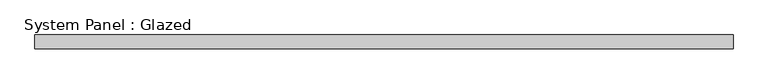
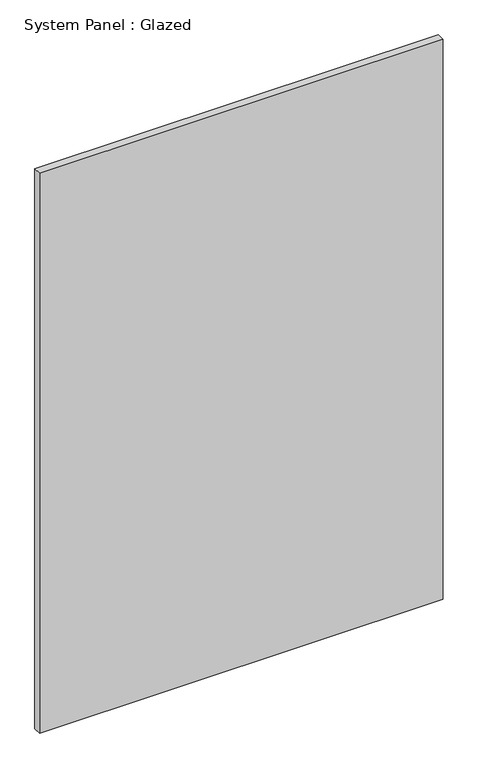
"""IFC4 building model written with IfcOpenShell, lengths in millimetres: plate geometry, System Panel : Glazed."""

from ifc_helpers import new_model, si_unit, origin, origin_with_axes, place, context, project, spatial, polyline, outline, extrude, source, transform, mapped, element, save


def system_panel_glazed_91421042(model_context):
    return source(origin(), model_context, "Body", "SweptSolid", [
        extrude(outline(polyline([(632.7777778, -49.5), (-632.7777778, -49.5), (-632.7777778, -24.5), (632.7777778, -24.5), (632.7777778, -49.5)])), origin_with_axes(), (0.0, 0.0, 1.0), 1854.4),
    ])


if __name__ == "__main__":
    model = new_model("IFC4")
    model_context = context("Model", 3, world=origin())
    ifc_project = project(units=[si_unit("LENGTHUNIT", "METRE", prefix="MILLI")], contexts=[model_context])
    site = spatial("IfcSite", under=ifc_project)
    building = spatial("IfcBuilding", under=site)
    placement = place(None, origin())
    system_panel_glazed_shape = system_panel_glazed_91421042(model_context)
    element("IfcPlate", 1, ObjectType="System Panel : Glazed", at=placement, inside=building, context=model_context, shape_type="MappedRepresentation", body=[
        mapped(system_panel_glazed_shape, transform((0.0, 0.0, 0.0), x_axis=(1.0, 0.0, 0.0), y_axis=(0.0, 1.0, 0.0), z_axis=(0.0, 0.0, 1.0))),
    ])
    save(model, "model.ifc")
